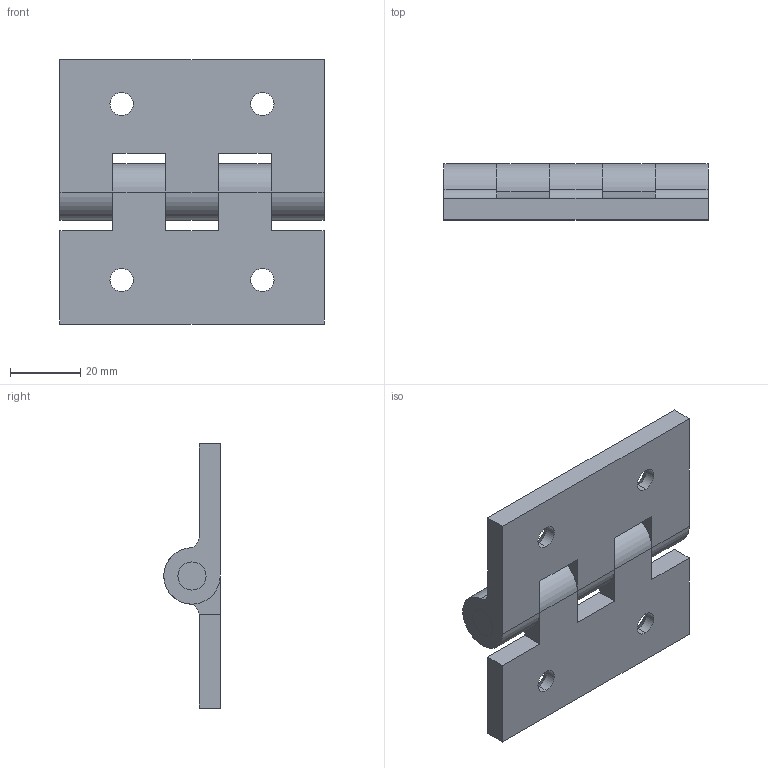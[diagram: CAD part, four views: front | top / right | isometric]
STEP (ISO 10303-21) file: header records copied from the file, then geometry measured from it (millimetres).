
FILE_DESCRIPTION (( 'STEP AP203' ), '1' );
FILE_NAME ('B04-20002.STEP', '2024-10-25T09:16:26', ( '' ), ( '' ), 'SwSTEP 2.0', 'SolidWorks 2021', '' );
FILE_SCHEMA (( 'CONFIG_CONTROL_DESIGN' ));
Length unit declared in the file: millimetre
Products named in the file (4): B04-20002; B04-2-2; B04軸心8-78; B04-2-1
Assembly tree (3 placements, depth 2):
  B04-20002
    B04-2-1
    B04-2-2
    B04軸心8-78
Bounding box: 75 x 15.99 x 75 mm (x, y, z)
Volume: 40158.9 mm3; surface area: 19714.3 mm2
Topology: 3 solids, 3 shells, 68 faces, 170 edges, 108 vertices
Faces by surface type: cylinder 35, plane 25, cone 8
Entity records: 2494 total; most frequent: DIRECTION 396, CARTESIAN_POINT 352, ORIENTED_EDGE 340, EDGE_CURVE 170, AXIS2_PLACEMENT_3D 152, VERTEX_POINT 108, LINE 92, VECTOR 92
